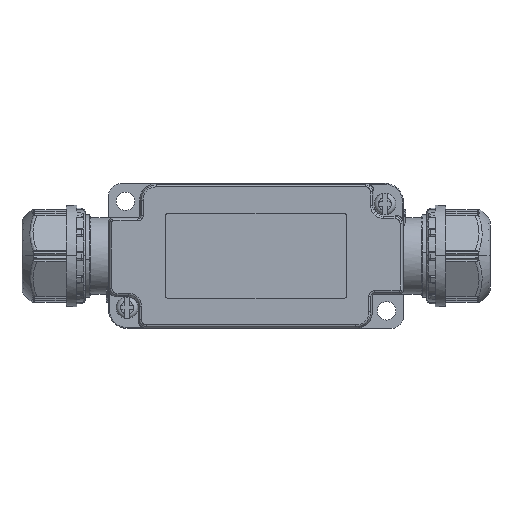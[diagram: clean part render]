
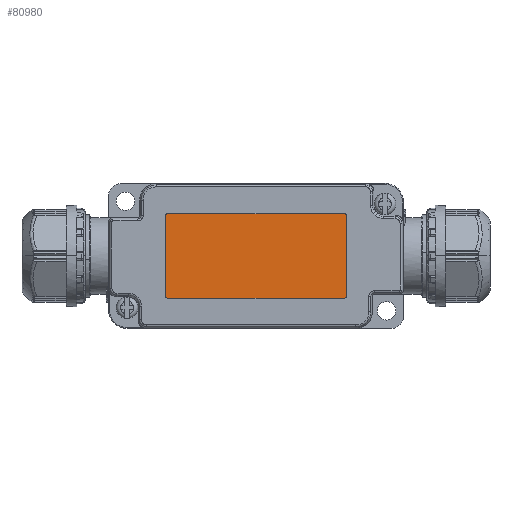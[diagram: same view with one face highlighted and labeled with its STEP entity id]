
A CAD part, top view. The second image highlights one B-rep face of the part: STEP entity #80980.
In plain terms, the highlighted planar face has unit normal (0, 0, 1).
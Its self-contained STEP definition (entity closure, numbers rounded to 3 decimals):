
#43140=CARTESIAN_POINT('',(63.43,35.33,22.7));
#43150=VERTEX_POINT('',#43140);
#43200=CARTESIAN_POINT('',(63.43,35.83,22.7));
#43210=DIRECTION('',(0.,0.,1.));
#43220=DIRECTION('',(-1.,0.,0.));
#43230=AXIS2_PLACEMENT_3D('',#43200,#43210,#43220);
#43240=CIRCLE('',#43230,0.5);
#43250=CARTESIAN_POINT('',(63.93,35.83,22.7));
#43260=VERTEX_POINT('',#43250);
#43270=EDGE_CURVE('',#43150,#43260,#43240,.T.);
#43530=CARTESIAN_POINT('',(63.93,55.33,22.7));
#43540=DIRECTION('',(0.,-1.,0.));
#43550=VECTOR('',#43540,1.);
#43560=LINE('',#43530,#43550);
#43570=CARTESIAN_POINT('',(63.93,54.83,22.7));
#43580=VERTEX_POINT('',#43570);
#43590=EDGE_CURVE('',#43580,#43260,#43560,.T.);
#43840=CARTESIAN_POINT('',(63.43,54.83,22.7));
#43850=DIRECTION('',(0.,0.,1.));
#43860=DIRECTION('',(-1.,0.,0.));
#43870=AXIS2_PLACEMENT_3D('',#43840,#43850,#43860);
#43880=CIRCLE('',#43870,0.5);
#43890=CARTESIAN_POINT('',(63.43,55.33,22.7));
#43900=VERTEX_POINT('',#43890);
#43910=EDGE_CURVE('',#43580,#43900,#43880,.T.);
#78130=CARTESIAN_POINT('',(24.43,55.33,22.7));
#78140=DIRECTION('',(1.,0.,0.));
#78150=VECTOR('',#78140,1.);
#78160=LINE('',#78130,#78150);
#78170=CARTESIAN_POINT('',(21.43,55.33,22.7));
#78180=VERTEX_POINT('',#78170);
#78190=EDGE_CURVE('',#78180,#43900,#78160,.T.);
#78470=CARTESIAN_POINT('',(20.93,35.83,22.7));
#78480=VERTEX_POINT('',#78470);
#78530=CARTESIAN_POINT('',(21.43,35.83,22.7));
#78540=DIRECTION('',(0.,0.,1.));
#78550=DIRECTION('',(1.,0.,0.));
#78560=AXIS2_PLACEMENT_3D('',#78530,#78540,#78550);
#78570=CIRCLE('',#78560,0.5);
#78580=CARTESIAN_POINT('',(21.43,35.33,22.7));
#78590=VERTEX_POINT('',#78580);
#78600=EDGE_CURVE('',#78480,#78590,#78570,.T.);
#80650=CARTESIAN_POINT('',(46.18,45.33,22.7));
#80660=DIRECTION('',(0.,0.,1.));
#80670=DIRECTION('',(1.,0.,0.));
#80680=AXIS2_PLACEMENT_3D('',#80650,#80660,#80670);
#80690=PLANE('',#80680);
#80700=ORIENTED_EDGE('',*,*,#78600,.T.);
#80710=CARTESIAN_POINT('',(20.93,35.33,22.7));
#80720=DIRECTION('',(0.,1.,0.));
#80730=VECTOR('',#80720,1.);
#80740=LINE('',#80710,#80730);
#80750=CARTESIAN_POINT('',(20.93,54.83,22.7));
#80760=VERTEX_POINT('',#80750);
#80770=EDGE_CURVE('',#78480,#80760,#80740,.T.);
#80780=ORIENTED_EDGE('',*,*,#80770,.F.);
#80790=CARTESIAN_POINT('',(21.43,54.83,22.7));
#80800=DIRECTION('',(0.,0.,1.));
#80810=DIRECTION('',(0.,1.,0.));
#80820=AXIS2_PLACEMENT_3D('',#80790,#80800,#80810);
#80830=CIRCLE('',#80820,0.5);
#80840=EDGE_CURVE('',#78180,#80760,#80830,.T.);
#80850=ORIENTED_EDGE('',*,*,#80840,.T.);
#80860=ORIENTED_EDGE('',*,*,#78190,.F.);
#80870=ORIENTED_EDGE('',*,*,#43910,.T.);
#80880=ORIENTED_EDGE('',*,*,#43590,.F.);
#80890=ORIENTED_EDGE('',*,*,#43270,.T.);
#80900=CARTESIAN_POINT('',(60.43,35.33,22.7));
#80910=DIRECTION('',(-1.,0.,0.));
#80920=VECTOR('',#80910,1.);
#80930=LINE('',#80900,#80920);
#80940=EDGE_CURVE('',#43150,#78590,#80930,.T.);
#80950=ORIENTED_EDGE('',*,*,#80940,.F.);
#80960=EDGE_LOOP('',(#80950,#80890,#80880,#80870,#80860,#80850,#80780,
#80700));
#80970=FACE_OUTER_BOUND('',#80960,.T.);
#80980=ADVANCED_FACE('',(#80970),#80690,.T.);
